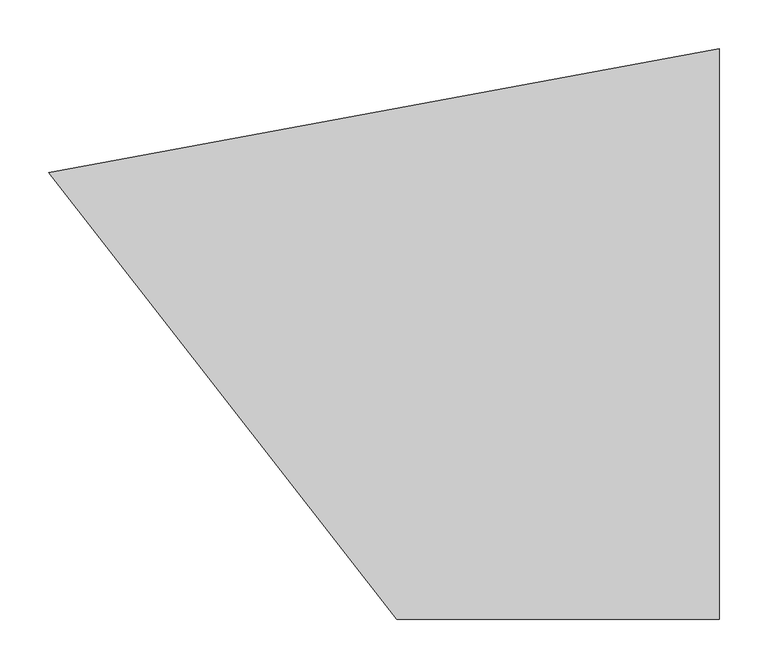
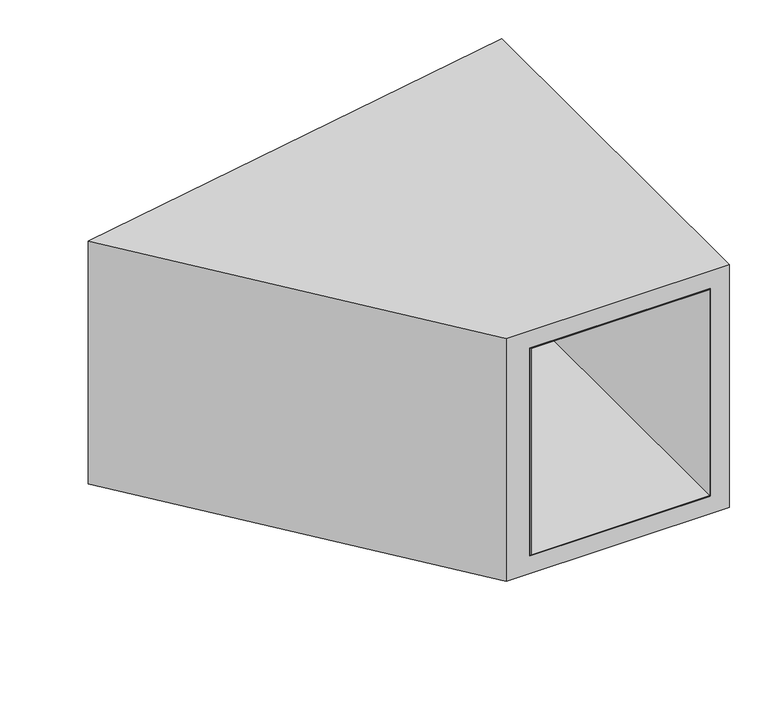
"""IFC4 building model written with IfcOpenShell, lengths in millimetres: furniture geometry, Steelcase Coalesse - Sebastopol - Table - Small : 16'' H."""

from ifc_helpers import new_model, si_unit, point, frame, frame_2d, origin, origin_with_axes, place, context, project, spatial, polyline, circle_curve, trimmed, segment, composite_curve, outline, extrude, faceted_brep, source, transform, mapped, element, save


def furniture_ad41b52c(model_context):
    return source(origin(), model_context, "Body", "SolidModel", [
        extrude(outline(polyline([(-28.8798, -5.3450123), (-28.8798, -584.2), (-293.6029229, -584.2), (-654.1401583, -121.0668767), (-28.8798, -5.3450123)])), frame((0.0, 0.0, 53.0098003), z_axis=(0.0, 0.0, 1.0), x_axis=(1.0, 0.0, 0.0)), (0.0, 0.0, 1.0), 1.2699997),
        extrude(outline(polyline([(-28.8798, -5.3450121), (-28.8798, -584.2), (-293.6029238, -584.2), (-654.1401592, -121.0668767), (-28.8798, -5.3450121)])), frame((0.0, 0.0, 377.7742), z_axis=(0.0, 0.0, 1.0), x_axis=(1.0, 0.0, 0.0)), (0.0, 0.0, 1.0), 1.0160148),
        extrude(outline(polyline([(-28.8798, -5.3450124), (-27.6097996, -5.1099634), (-27.6097996, -584.2), (-28.8798, -584.2), (-28.8798, -5.3450124)])), frame((0.0, 0.0, 53.0098003), z_axis=(0.0, 0.0, 1.0), x_axis=(1.0, 0.0, 0.0)), (0.0, 0.0, 1.0), 325.7804145),
        extrude(outline(polyline([(-654.1401467, -121.0668915), (-293.6008661, -584.1999904), (-295.210327, -584.1999904), (-655.5469207, -121.3272543), (-654.1401467, -121.0668915)])), frame((0.0, 0.0, 53.0098003), z_axis=(0.0, 0.0, 1.0), x_axis=(1.0, 0.0, 0.0)), (0.0, 0.0, 1.0), 325.7804145),
        extrude(outline(composite_curve([segment(trimmed(circle_curve(frame_2d((-303.6026265, -530.8298119)), 17.272), [point((-320.8746265, -530.8298119))], [point((-286.3306265, -530.8298119))], False, "CARTESIAN"), True, "CONTINUOUS"), segment(trimmed(circle_curve(frame_2d((-303.6026265, -530.8298119)), 17.272), [point((-286.3306265, -530.8298119))], [point((-320.8746265, -530.8298119))], False, "CARTESIAN"), True, "CONTINUOUS")], self_intersect=False)), origin_with_axes(), (0.0, 0.0, 1.0), 13.97),
        extrude(outline(composite_curve([segment(trimmed(circle_curve(frame_2d((-54.1946691, -530.8298119)), 17.272), [point((-71.4666691, -530.8298119))], [point((-36.9226691, -530.8298119))], False, "CARTESIAN"), True, "CONTINUOUS"), segment(trimmed(circle_curve(frame_2d((-54.1946691, -530.8298119)), 17.272), [point((-36.9226691, -530.8298119))], [point((-71.4666691, -530.8298119))], False, "CARTESIAN"), True, "CONTINUOUS")], self_intersect=False)), origin_with_axes(), (0.0, 0.0, 1.0), 13.97),
        extrude(outline(composite_curve([segment(trimmed(circle_curve(frame_2d((-54.1946691, -64.3766294)), 17.272), [point((-71.4666691, -64.3766294))], [point((-36.9226691, -64.3766294))], False, "CARTESIAN"), True, "CONTINUOUS"), segment(trimmed(circle_curve(frame_2d((-54.1946691, -64.3766294)), 17.272), [point((-36.9226691, -64.3766294))], [point((-71.4666691, -64.3766294))], False, "CARTESIAN"), True, "CONTINUOUS")], self_intersect=False)), origin_with_axes(), (0.0, 0.0, 1.0), 13.97),
        extrude(outline(composite_curve([segment(trimmed(circle_curve(frame_2d((-589.7671168, -163.6088416)), 17.272), [point((-607.0391168, -163.6088416))], [point((-572.4951168, -163.6088416))], False, "CARTESIAN"), True, "CONTINUOUS"), segment(trimmed(circle_curve(frame_2d((-589.7671168, -163.6088416)), 17.272), [point((-572.4951168, -163.6088416))], [point((-607.0391168, -163.6088416))], False, "CARTESIAN"), True, "CONTINUOUS")], self_intersect=False)), origin_with_axes(), (0.0, 0.0, 1.0), 13.97),
        faceted_brep([(-686.1302102, -126.9875278, 406.4), (-330.2000121, -584.1999879, 406.4), (0.0, -584.1999879, 406.4), (0.0, 0.0, 406.4), (-686.1302102, -126.9875278, 25.4000008), (0.0, 0.0, 25.4000008), (0.0, -584.1999879, 25.4000008), (-330.2000121, -584.1999879, 25.4000008), (-295.2103195, -584.1999879, 378.7902148), (-27.6097996, -584.1999879, 378.7902148), (-27.6097996, -584.1999879, 53.0098003), (-295.2103195, -584.1999879, 53.0098003), (-27.6097996, -5.1099633, 378.7902148), (-655.5469323, -121.3272394, 378.7902148), (-655.5469323, -121.3272394, 53.0098003), (-27.6097996, -5.1099633, 53.0098003)], [[[0, 1, 2, 3]], [[4, 5, 6, 7]], [[1, 0, 4, 7]], [[2, 1, 7, 6], [8, 9, 10, 11]], [[3, 2, 6, 5]], [[0, 3, 5, 4], [12, 13, 14, 15]], [[8, 13, 12, 9]], [[10, 15, 14, 11]], [[9, 12, 15, 10]], [[13, 8, 11, 14]]]),
        extrude(outline(composite_curve([segment(trimmed(circle_curve(frame_2d((-303.2565091, -530.7936073)), 4.826), [point((-308.0825091, -530.7936073))], [point((-298.4305091, -530.7936073))], False, "CARTESIAN"), True, "CONTINUOUS"), segment(trimmed(circle_curve(frame_2d((-303.2565091, -530.7936073)), 4.826), [point((-298.4305091, -530.7936073))], [point((-308.0825091, -530.7936073))], False, "CARTESIAN"), True, "CONTINUOUS")], self_intersect=False)), frame((0.0, 0.0, 13.97), z_axis=(0.0, 0.0, 1.0), x_axis=(1.0, 0.0, 0.0)), (0.0, 0.0, 1.0), 11.4300008),
        extrude(outline(composite_curve([segment(trimmed(circle_curve(frame_2d((-53.8485517, -530.7936073)), 4.826), [point((-58.6745517, -530.7936073))], [point((-49.0225517, -530.7936073))], False, "CARTESIAN"), True, "CONTINUOUS"), segment(trimmed(circle_curve(frame_2d((-53.8485517, -530.7936073)), 4.826), [point((-49.0225517, -530.7936073))], [point((-58.6745517, -530.7936073))], False, "CARTESIAN"), True, "CONTINUOUS")], self_intersect=False)), frame((0.0, 0.0, 13.97), z_axis=(0.0, 0.0, 1.0), x_axis=(1.0, 0.0, 0.0)), (0.0, 0.0, 1.0), 11.4300008),
        extrude(outline(composite_curve([segment(trimmed(circle_curve(frame_2d((-53.8485517, -64.3404248)), 4.826), [point((-58.6745517, -64.3404248))], [point((-49.0225517, -64.3404248))], False, "CARTESIAN"), True, "CONTINUOUS"), segment(trimmed(circle_curve(frame_2d((-53.8485517, -64.3404248)), 4.826), [point((-49.0225517, -64.3404248))], [point((-58.6745517, -64.3404248))], False, "CARTESIAN"), True, "CONTINUOUS")], self_intersect=False)), frame((0.0, 0.0, 13.97), z_axis=(0.0, 0.0, 1.0), x_axis=(1.0, 0.0, 0.0)), (0.0, 0.0, 1.0), 11.4300008),
        extrude(outline(composite_curve([segment(trimmed(circle_curve(frame_2d((-589.4209994, -163.5726371)), 4.826), [point((-594.2469994, -163.5726371))], [point((-584.5949994, -163.5726371))], False, "CARTESIAN"), True, "CONTINUOUS"), segment(trimmed(circle_curve(frame_2d((-589.4209994, -163.5726371)), 4.826), [point((-584.5949994, -163.5726371))], [point((-594.2469994, -163.5726371))], False, "CARTESIAN"), True, "CONTINUOUS")], self_intersect=False)), frame((0.0, 0.0, 13.97), z_axis=(0.0, 0.0, 1.0), x_axis=(1.0, 0.0, 0.0)), (0.0, 0.0, 1.0), 11.4300008),
    ])


if __name__ == "__main__":
    model = new_model("IFC4")
    model_context = context("Model", 3, world=origin())
    ifc_project = project(units=[si_unit("LENGTHUNIT", "METRE", prefix="MILLI")], contexts=[model_context])
    site = spatial("IfcSite", under=ifc_project)
    building = spatial("IfcBuilding", under=site)
    placement = place(None, origin())
    furniture_shape = furniture_ad41b52c(model_context)
    element("IfcFurniture", 1, ObjectType="Steelcase Coalesse - Sebastopol - Table - Small : 16'' H", at=placement, inside=building, context=model_context, shape_type="MappedRepresentation", body=[
        mapped(furniture_shape, transform((0.0, 0.0, 0.0), x_axis=(1.0, 0.0, 0.0), y_axis=(0.0, 1.0, 0.0), z_axis=(0.0, 0.0, 1.0))),
    ])
    save(model, "model.ifc")
